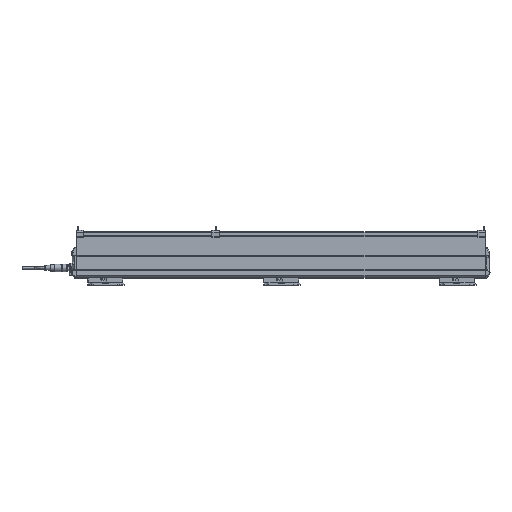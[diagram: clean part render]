
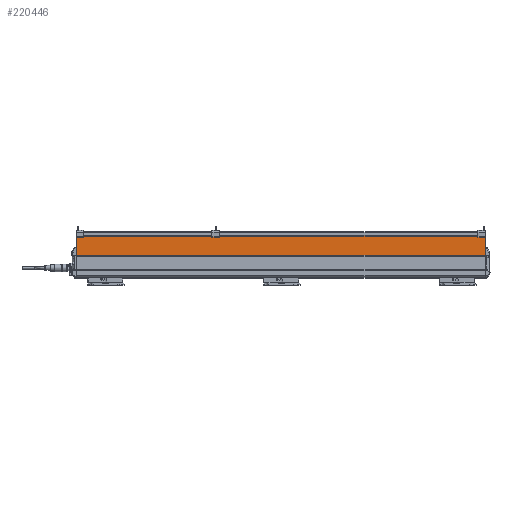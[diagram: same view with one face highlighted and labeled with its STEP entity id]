
A CAD part, front view. The second image highlights one B-rep face of the part: STEP entity #220446.
In plain terms, the highlighted planar face has unit normal (0, -1, 0) as drawn and (0, 1, 0) by its records, which use the part's own axes.
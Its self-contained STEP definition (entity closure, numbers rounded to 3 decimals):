
#75737=ORIENTED_EDGE('',*,*,#107795,.F.);
#75738=ORIENTED_EDGE('',*,*,#107760,.F.);
#75739=ORIENTED_EDGE('',*,*,#107794,.F.);
#75740=ORIENTED_EDGE('',*,*,#107699,.F.);
#92473=VECTOR('',#124377,1.);
#92500=VECTOR('',#124478,1.);
#92530=VECTOR('',#124572,1.);
#92531=VECTOR('',#124575,1.);
#97310=LINE('',#141753,#92473);
#97337=LINE('',#141876,#92500);
#97367=LINE('',#141942,#92530);
#97368=LINE('',#141944,#92531);
#102158=VERTEX_POINT('',#141750);
#102159=VERTEX_POINT('',#141752);
#102217=VERTEX_POINT('',#141873);
#102218=VERTEX_POINT('',#141875);
#107699=EDGE_CURVE('',#102158,#102159,#97310,.T.);
#107760=EDGE_CURVE('',#102217,#102218,#97337,.T.);
#107794=EDGE_CURVE('',#102159,#102217,#97367,.T.);
#107795=EDGE_CURVE('',#102218,#102158,#97368,.T.);
#116194=EDGE_LOOP('',(#75737,#75738,#75739,#75740));
#120186=FACE_BOUND('',#116194,.T.);
#124377=DIRECTION('',(36.287,0.,0.));
#124478=DIRECTION('',(-36.287,0.,0.));
#124572=DIRECTION('',(0.,0.,785.));
#124573=DIRECTION('',(0.,1.,0.));
#124574=DIRECTION('',(1.,0.,0.));
#124575=DIRECTION('',(0.,0.,-785.));
#141750=CARTESIAN_POINT('',(-29.322,15.,-660.));
#141752=CARTESIAN_POINT('',(6.965,15.,-660.));
#141753=CARTESIAN_POINT('',(-29.322,15.,-660.));
#141873=CARTESIAN_POINT('',(6.965,15.,125.));
#141875=CARTESIAN_POINT('',(-29.322,15.,125.));
#141876=CARTESIAN_POINT('',(6.965,15.,125.));
#141942=CARTESIAN_POINT('',(6.965,15.,-660.));
#141943=CARTESIAN_POINT('',(-29.322,15.,125.));
#141944=CARTESIAN_POINT('',(-29.322,15.,125.));
#212686=AXIS2_PLACEMENT_3D('',#141943,#124573,#124574);
#218835=PLANE('',#212686);
#220446=ADVANCED_FACE('',(#120186),#218835,.T.);
